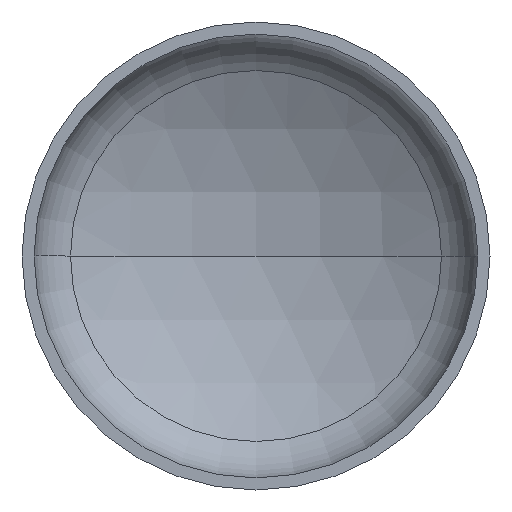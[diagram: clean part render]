
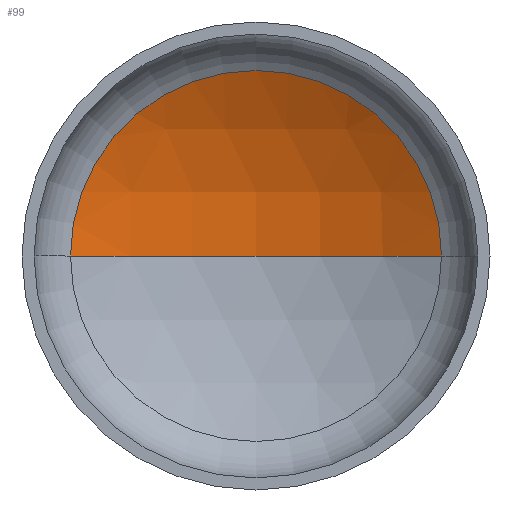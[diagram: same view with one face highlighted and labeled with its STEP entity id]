
A CAD part, front view. The second image highlights one B-rep face of the part: STEP entity #99.
In plain terms, the highlighted spherical face has radius 1920 mm.
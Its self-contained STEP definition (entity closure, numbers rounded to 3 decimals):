
#2 = CARTESIAN_POINT ( 'NONE',  ( 0., -1226.357, 0. ) ) ;
#6 = DIRECTION ( 'NONE',  ( 1., 0., 0. ) ) ;
#10 = DIRECTION ( 'NONE',  ( 0., 0., 1. ) ) ;
#20 = EDGE_LOOP ( 'NONE', ( #142, #328, #43 ) ) ;
#22 = AXIS2_PLACEMENT_3D ( 'NONE', #2, #182, #240 ) ;
#23 = CARTESIAN_POINT ( 'NONE',  ( 0., 693.643, 0. ) ) ;
#24 = AXIS2_PLACEMENT_3D ( 'NONE', #275, #10, #6 ) ;
#27 = AXIS2_PLACEMENT_3D ( 'NONE', #37, #282, #95 ) ;
#29 = AXIS2_PLACEMENT_3D ( 'NONE', #208, #210, #170 ) ;
#37 = CARTESIAN_POINT ( 'NONE',  ( 0., -1226.357, 0. ) ) ;
#43 = ORIENTED_EDGE ( 'NONE', *, *, #76, .T. ) ;
#76 = EDGE_CURVE ( 'NONE', #153, #196, #280, .T. ) ;
#78 = EDGE_CURVE ( 'NONE', #262, #153, #218, .T. ) ;
#79 = EDGE_CURVE ( 'NONE', #262, #196, #116, .T. ) ;
#95 = DIRECTION ( 'NONE',  ( -1., 0., 0. ) ) ;
#99 = ADVANCED_FACE ( 'NONE', ( #395 ), #354, .F. ) ;
#116 = CIRCLE ( 'NONE', #24, 1920. ) ;
#142 = ORIENTED_EDGE ( 'NONE', *, *, #79, .F. ) ;
#153 = VERTEX_POINT ( 'NONE', #216 ) ;
#170 = DIRECTION ( 'NONE',  ( 1., 0., 0. ) ) ;
#182 = DIRECTION ( 'NONE',  ( 0., 0., -1. ) ) ;
#196 = VERTEX_POINT ( 'NONE', #287 ) ;
#208 = CARTESIAN_POINT ( 'NONE',  ( 0., 441.388, 0. ) ) ;
#210 = DIRECTION ( 'NONE',  ( 0., -1., 0. ) ) ;
#216 = CARTESIAN_POINT ( 'NONE',  ( 951.329, 441.388, 0. ) ) ;
#218 = CIRCLE ( 'NONE', #27, 1920. ) ;
#240 = DIRECTION ( 'NONE',  ( -1., 0., 0. ) ) ;
#262 = VERTEX_POINT ( 'NONE', #23 ) ;
#275 = CARTESIAN_POINT ( 'NONE',  ( 0., -1226.357, 0. ) ) ;
#280 = CIRCLE ( 'NONE', #29, 951.329 ) ;
#282 = DIRECTION ( 'NONE',  ( 0., 0., -1. ) ) ;
#287 = CARTESIAN_POINT ( 'NONE',  ( -951.329, 441.388, 0. ) ) ;
#328 = ORIENTED_EDGE ( 'NONE', *, *, #78, .T. ) ;
#354 = SPHERICAL_SURFACE ( 'NONE', #22, 1920. ) ;
#395 = FACE_OUTER_BOUND ( 'NONE', #20, .T. ) ;
